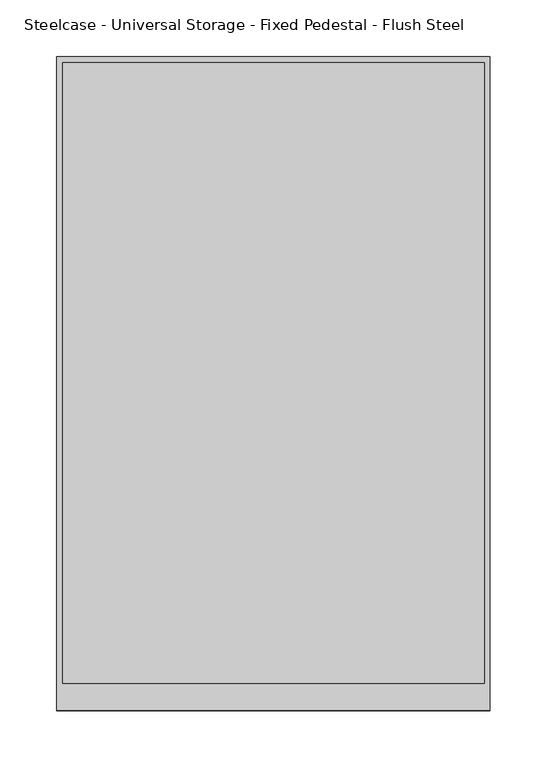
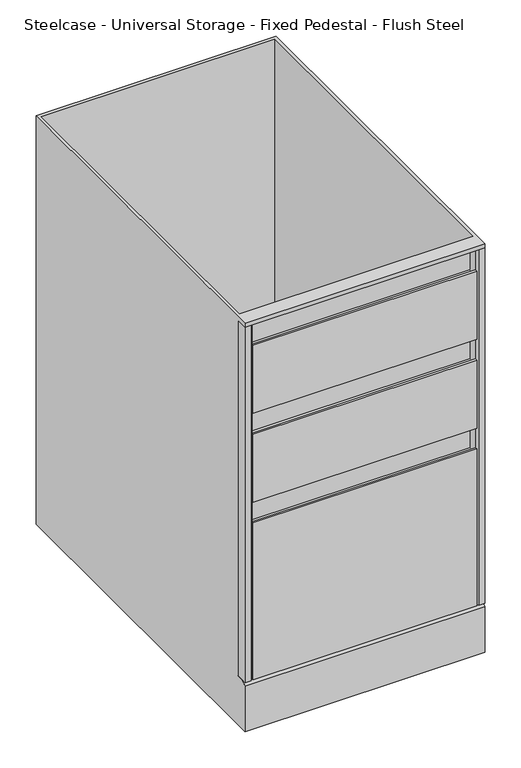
"""IFC4 building model written with IfcOpenShell, lengths in millimetres: furniture geometry, Steelcase - Universal Storage - Fixed Pedestal - Flush Steel : 2 Box/1 File - 27H x 22 5/8D."""

import ifcopenshell
import ifcopenshell.guid

model = None  # the IFC model being written
_history = None  # IfcOwnerHistory: only IFC2X3 demands one
_inside = {}  # id of a spatial element -> (the spatial element, [elements in it])
_under = {}  # id of a project, library or spatial element -> (it, [spatial elements below it])
_declared = {}  # id of a project -> (the project, [libraries it declares])
_typed = {}  # id of a type object -> (the type object, [elements of that type])
_made_of = {}  # id of a material, layer set ... -> (it, [elements and type objects made of it])


def new_model(schema):
    """Start an empty IFC model of exactly this schema.

    Asked for "IFC4X3", IfcOpenShell would pick the latest addendum, in which some entities
    have other attributes; the version numbers below select the first issue.
    IFC2X3 requires an IfcOwnerHistory on every rooted entity: one is made here for all.
    """
    global model, _history
    if schema == "IFC4X3":
        model = ifcopenshell.file(schema_version=(4, 3, 0, 0))
    else:
        model = ifcopenshell.file(schema=schema)
    _inside.clear()
    _under.clear()
    _declared.clear()
    _typed.clear()
    _made_of.clear()
    _history = None
    if model.schema == "IFC2X3":
        org = make("IfcOrganization", Name="unknown")
        user = make(
            "IfcPersonAndOrganization",
            ThePerson=make("IfcPerson", FamilyName="unknown"),
            TheOrganization=org,
        )
        app = make(
            "IfcApplication",
            ApplicationDeveloper=org,
            Version="unknown",
            ApplicationFullName="unknown",
            ApplicationIdentifier="unknown",
        )
        _history = make(
            "IfcOwnerHistory",
            OwningUser=user,
            OwningApplication=app,
            ChangeAction="ADDED",
            CreationDate=0,
        )
    return model


def make(cls, **values):
    """One entity of the class cls with the attributes given. An attribute that is None is left unset."""
    return model.create_entity(
        cls, **{name: value for name, value in values.items() if value is not None}
    )


def rooted(cls, **values):
    """An entity with a GlobalId (a new one), such as an element, a storey or a relation."""
    return make(cls, GlobalId=ifcopenshell.guid.new(), OwnerHistory=_history, **values)


def si_unit(unit_type, name, prefix=None):
    """IfcSIUnit, for example si_unit("LENGTHUNIT", "METRE", prefix="MILLI")."""
    return make("IfcSIUnit", UnitType=unit_type, Prefix=prefix, Name=name)


def assignment(units):
    """IfcUnitAssignment: the units of a project."""
    return None if units is None else make("IfcUnitAssignment", Units=units)


def point(xyz):
    """IfcCartesianPoint."""
    return None if xyz is None else make("IfcCartesianPoint", Coordinates=xyz)


def direction(xyz):
    """IfcDirection."""
    return None if xyz is None else make("IfcDirection", DirectionRatios=xyz)


def frame(location, z_axis=None, x_axis=None):
    """IfcAxis2Placement3D, a coordinate frame: its origin and axes. An axis left out is left unset."""
    return make(
        "IfcAxis2Placement3D",
        Location=point(location),
        Axis=direction(z_axis),
        RefDirection=direction(x_axis),
    )


def origin():
    """The frame at (0, 0, 0) with its axes left unset."""
    return frame((0.0, 0.0, 0.0))


def place(relative_to, where):
    """IfcLocalPlacement: puts the frame where relative to a parent placement (None: the world)."""
    return make(
        "IfcLocalPlacement", PlacementRelTo=relative_to, RelativePlacement=where
    )


def context(
    kind, dimensions, precision=None, world=None, true_north=None, identifier=None
):
    """IfcGeometricRepresentationContext, for example the 3D "Model" context."""
    return make(
        "IfcGeometricRepresentationContext",
        ContextIdentifier=identifier,
        ContextType=kind,
        CoordinateSpaceDimension=dimensions,
        Precision=precision,
        WorldCoordinateSystem=world,
        TrueNorth=true_north,
    )


def project(units=None, contexts=None):
    """IfcProject with its units and contexts."""
    return rooted(
        "IfcProject",
        Name="project",
        RepresentationContexts=contexts,
        UnitsInContext=assignment(units),
    )


def spatial(cls, under=None, at=None, **own):
    """A site, building, storey or space (cls), placed at a placement, below another one or the project."""
    s = rooted(cls, ObjectPlacement=at, **own)
    if under is not None:
        _under.setdefault(under.id(), (under, []))[1].append(s)
    return s


def polyline(points):
    """IfcPolyline through the points."""
    return make("IfcPolyline", Points=[point(p) for p in points])


def outline(outer, holes=None, kind="AREA"):
    """IfcArbitraryClosedProfileDef: a profile drawn as a closed curve; with holes, ...WithVoids."""
    if holes is None:
        return make("IfcArbitraryClosedProfileDef", ProfileType=kind, OuterCurve=outer)
    return make(
        "IfcArbitraryProfileDefWithVoids",
        ProfileType=kind,
        OuterCurve=outer,
        InnerCurves=holes,
    )


def extrude(swept, where, along, depth):
    """IfcExtrudedAreaSolid: the profile swept, set in the frame where, extruded along a direction by depth."""
    return make(
        "IfcExtrudedAreaSolid",
        SweptArea=swept,
        Position=where,
        ExtrudedDirection=direction(along),
        Depth=depth,
    )


def faces_of(points, faces, orient=None, outer=None):
    """IfcFace entities. A face is a list of loops; a loop is a list of indices into points, from 0.

    orient and outer hold one flag for each loop. By default every Orientation is true, the
    first loop of a face is its IfcFaceOuterBound and the others are IfcFaceBound.
    """
    made = []
    for i, loops in enumerate(faces):
        bounds = []
        for j, loop in enumerate(loops):
            is_outer = j == 0 if outer is None else outer[i][j]
            bounds.append(
                make(
                    "IfcFaceOuterBound" if is_outer else "IfcFaceBound",
                    Bound=make("IfcPolyLoop", Polygon=[points[k] for k in loop]),
                    Orientation=True if orient is None else orient[i][j],
                )
            )
        made.append(make("IfcFace", Bounds=bounds))
    return made


def faceted_brep(points, faces, orient=None, outer=None, voids=None):
    """IfcFacetedBrep: a solid bounded by flat faces; with voids (closed shells), ...WithVoids."""
    shared = [point(p) for p in points]
    hull = make("IfcClosedShell", CfsFaces=faces_of(shared, faces, orient, outer))
    if voids is None:
        return make("IfcFacetedBrep", Outer=hull)
    return make(
        "IfcFacetedBrepWithVoids",
        Outer=hull,
        Voids=[
            make(cls, CfsFaces=faces_of(shared, fs, o, b)) for cls, fs, o, b in voids
        ],
    )


def shape(context_of_items, identifier, shape_type, items):
    """IfcShapeRepresentation: the items that make up one representation, for example the "Body"."""
    return make(
        "IfcShapeRepresentation",
        ContextOfItems=context_of_items,
        RepresentationIdentifier=identifier,
        RepresentationType=shape_type,
        Items=items,
    )


def source(mapping_origin, context_of_items, identifier, shape_type, items):
    """IfcRepresentationMap: a shape defined once, which mapped items show again and again."""
    return make(
        "IfcRepresentationMap",
        MappingOrigin=mapping_origin,
        MappedRepresentation=shape(context_of_items, identifier, shape_type, items),
    )


def transform(
    local_origin,
    x_axis=None,
    y_axis=None,
    z_axis=None,
    scale=None,
    scale2=None,
    scale3=None,
    uniform=True,
):
    """IfcCartesianTransformationOperator3D, or its non-uniform kind. x_axis, y_axis, z_axis: its Axis1, 2, 3."""
    if uniform:
        return make(
            "IfcCartesianTransformationOperator3D",
            Axis1=direction(x_axis),
            Axis2=direction(y_axis),
            LocalOrigin=point(local_origin),
            Scale=scale,
            Axis3=direction(z_axis),
        )
    return make(
        "IfcCartesianTransformationOperator3DnonUniform",
        Axis1=direction(x_axis),
        Axis2=direction(y_axis),
        LocalOrigin=point(local_origin),
        Scale=scale,
        Axis3=direction(z_axis),
        Scale2=scale2,
        Scale3=scale3,
    )


def mapped(mapping_source, mapping_target):
    """IfcMappedItem: shows the shape of a source again, moved by a transform."""
    return make(
        "IfcMappedItem", MappingSource=mapping_source, MappingTarget=mapping_target
    )


def made_of(thing, what):
    """Note that an element or type object is made of a material, layer set ...; save() writes the relation."""
    if what is not None:
        _made_of.setdefault(what.id(), (what, []))[1].append(thing)
    return thing


def element(
    cls,
    number,
    at=None,
    inside=None,
    cuts=None,
    type_object=None,
    material=None,
    context=None,
    identifier="Body",
    shape_type=None,
    held_by="IfcProductDefinitionShape",
    body=None,
    shapes=None,
    **own,
):
    """One element of the class cls, such as IfcWall. Its Tag is "e" and its number.

    at: its placement. inside: the storey or other place that contains it. cuts: it is an
    opening in that element (IfcRelVoidsElement). A single representation is given by context,
    identifier, shape_type and body (its items); several are given by shapes. held_by: the class
    of the entity that holds the representations. save() writes the other relations.
    """
    e = rooted(cls, Tag="e%d" % number, ObjectPlacement=at, **own)
    if body is not None:
        shapes = [shape(context, identifier, shape_type, body)]
    if shapes is not None:
        e.Representation = make(held_by, Representations=shapes)
    if inside is not None:
        _inside.setdefault(inside.id(), (inside, []))[1].append(e)
    if cuts is not None:
        rooted(
            "IfcRelVoidsElement", RelatingBuildingElement=cuts, RelatedOpeningElement=e
        )
    if type_object is not None:
        _typed.setdefault(type_object.id(), (type_object, []))[1].append(e)
    return made_of(e, material)


def aggregate(whole, parts):
    """IfcRelAggregates: a whole, such as a stair, and the parts it consists of."""
    return rooted("IfcRelAggregates", RelatingObject=whole, RelatedObjects=parts)


def save(model, path):
    """Write the relations noted so far, then the file.

    IfcRelAggregates (storeys below a building ...), IfcRelContainedInSpatialStructure (elements
    in a storey), IfcRelDefinesByType, IfcRelAssociatesMaterial and IfcRelDeclares: one each for
    every whole, place, type object, material and project.
    """
    for whole, parts in _under.values():
        aggregate(whole, parts)
    for where, things in _inside.values():
        rooted(
            "IfcRelContainedInSpatialStructure",
            RelatedElements=things,
            RelatingStructure=where,
        )
    for kind, things in _typed.values():
        rooted("IfcRelDefinesByType", RelatedObjects=things, RelatingType=kind)
    for what, things in _made_of.values():
        rooted("IfcRelAssociatesMaterial", RelatedObjects=things, RelatingMaterial=what)
    for by, libraries in _declared.values():
        rooted("IfcRelDeclares", RelatingContext=by, RelatedDefinitions=libraries)
    model.write(path)


def steelcase_universal_storage_fixed_pedestal_flush_steel_8c083734(model_context):
    return source(origin(), model_context, "Body", "SolidModel", [
        extrude(outline(polyline([(368.3000121, 0.0), (12.7000004, 0.0), (12.7000004, 3.1750001), (368.3000121, 3.1750001), (368.3000121, 0.0)])), frame((0.0, 0.0, 530.2250121), z_axis=(0.0, 0.0, 1.0), x_axis=(1.0, 0.0, 0.0)), (0.0, 0.0, 1.0), 114.2999637),
        extrude(outline(polyline([(368.3000121, 0.0), (12.7000004, 0.0), (12.7000004, 3.1750001), (368.3000121, 3.1750001), (368.3000121, 0.0)])), frame((0.0, 0.0, 381.0000363), z_axis=(0.0, 0.0, 1.0), x_axis=(1.0, 0.0, 0.0)), (0.0, 0.0, 1.0), 114.1729758),
        extrude(outline(polyline([(368.3000121, 3.1750001), (12.7000004, 3.1750001), (12.7000004, 19.0495469), (368.3000121, 19.0495469), (368.3000121, 3.1750001)])), frame((0.0, 0.0, 82.550003), z_axis=(0.0, 0.0, 1.0), x_axis=(1.0, 0.0, 0.0)), (0.0, 0.0, 1.0), 254.000003),
        extrude(outline(polyline([(368.3000121, 3.1750001), (12.7000004, 3.1750001), (12.7000004, 19.0495469), (368.3000121, 19.0495469), (368.3000121, 3.1750001)])), frame((0.0, 0.0, 381.0000363), z_axis=(0.0, 0.0, 1.0), x_axis=(1.0, 0.0, 0.0)), (0.0, 0.0, 1.0), 104.7749637),
        extrude(outline(polyline([(368.3000121, 3.1750001), (12.7000004, 3.1750001), (12.7000004, 19.0495469), (368.3000121, 19.0495469), (368.3000121, 3.1750001)])), frame((0.0, 0.0, 530.2250121), z_axis=(0.0, 0.0, 1.0), x_axis=(1.0, 0.0, 0.0)), (0.0, 0.0, 1.0), 104.7749637),
        extrude(outline(polyline([(368.3000121, 0.0), (12.7000004, 0.0), (12.7000004, 3.1750001), (368.3000121, 3.1750001), (368.3000121, 0.0)])), frame((0.0, 0.0, 82.550003), z_axis=(0.0, 0.0, 1.0), x_axis=(1.0, 0.0, 0.0)), (0.0, 0.0, 1.0), 263.5249849),
        faceted_brep([(381.0, 0.0, 679.4500242), (381.0, 19.0495469, 679.4500242), (381.0, 19.0495469, 82.550003), (381.0, 6.350003, 82.550003), (381.0, 0.0, 76.2), (381.0, 0.0, 0.0), (381.0, 574.802, 0.0), (381.0, 574.802, 685.8), (381.0, 0.0, 685.8), (0.0, 0.0, 679.4500242), (0.0, 0.0, 685.8), (0.0, 574.802, 685.8), (0.0, 574.802, 0.0), (0.0, 0.0, 0.0), (0.0, 0.0, 76.2), (0.0, 6.350003, 82.550003), (0.0, 19.0495469, 82.550003), (0.0, 19.0495469, 679.4500242), (5.08, 569.722, 685.8), (375.92, 569.722, 685.8), (375.92, 24.1295469, 685.8), (5.08, 24.1295469, 685.8), (375.92, 569.722, 82.550003), (5.08, 569.722, 82.550003), (5.08, 24.1295469, 82.550003), (375.92, 24.1295469, 82.550003)], [[[0, 1, 2, 3, 4, 5, 6, 7, 8]], [[9, 10, 11, 12, 13, 14, 15, 16, 17]], [[1, 0, 9, 17]], [[2, 1, 17, 16]], [[2, 16, 15, 3]], [[13, 5, 4, 14]], [[6, 5, 13, 12]], [[7, 6, 12, 11]], [[8, 7, 11, 10], [18, 19, 20, 21]], [[0, 8, 10, 9]], [[4, 3, 15, 14]], [[22, 23, 24, 25]], [[23, 22, 19, 18]], [[24, 23, 18, 21]], [[25, 24, 21, 20]], [[22, 25, 20, 19]]]),
        extrude(outline(polyline([(12.7000004, 19.0495469), (12.7000004, 3.1750001), (9.5250003, 0.0), (0.0, 0.0), (0.0, 19.0495469), (12.7000004, 19.0495469)])), frame((0.0, 0.0, 82.550003), z_axis=(0.0, 0.0, 1.0), x_axis=(1.0, 0.0, 0.0)), (0.0, 0.0, 1.0), 596.9000212),
        extrude(outline(polyline([(381.0000125, 19.0495469), (381.0000125, 0.0), (371.4750122, 0.0), (368.3000121, 3.1750001), (368.3000121, 19.0495469), (381.0000125, 19.0495469)])), frame((0.0, 0.0, 82.550003), z_axis=(0.0, 0.0, 1.0), x_axis=(1.0, 0.0, 0.0)), (0.0, 0.0, 1.0), 596.9000212),
    ])


if __name__ == "__main__":
    model = new_model("IFC4")
    model_context = context("Model", 3, world=origin())
    ifc_project = project(units=[si_unit("LENGTHUNIT", "METRE", prefix="MILLI")], contexts=[model_context])
    site = spatial("IfcSite", under=ifc_project)
    building = spatial("IfcBuilding", under=site)
    placement = place(None, origin())
    steelcase_universal_storage_fixed_pedestal_flush_steel_shape = steelcase_universal_storage_fixed_pedestal_flush_steel_8c083734(model_context)
    element("IfcFurniture", 1, ObjectType="Steelcase - Universal Storage - Fixed Pedestal - Flush Steel : 2 Box/1 File - 27H x 22 5/8D", at=placement, inside=building, context=model_context, shape_type="MappedRepresentation", body=[
        mapped(steelcase_universal_storage_fixed_pedestal_flush_steel_shape, transform((0.0, 0.0, 0.0), x_axis=(1.0, 0.0, 0.0), y_axis=(0.0, 1.0, 0.0), z_axis=(0.0, 0.0, 1.0))),
    ])
    save(model, "model.ifc")
